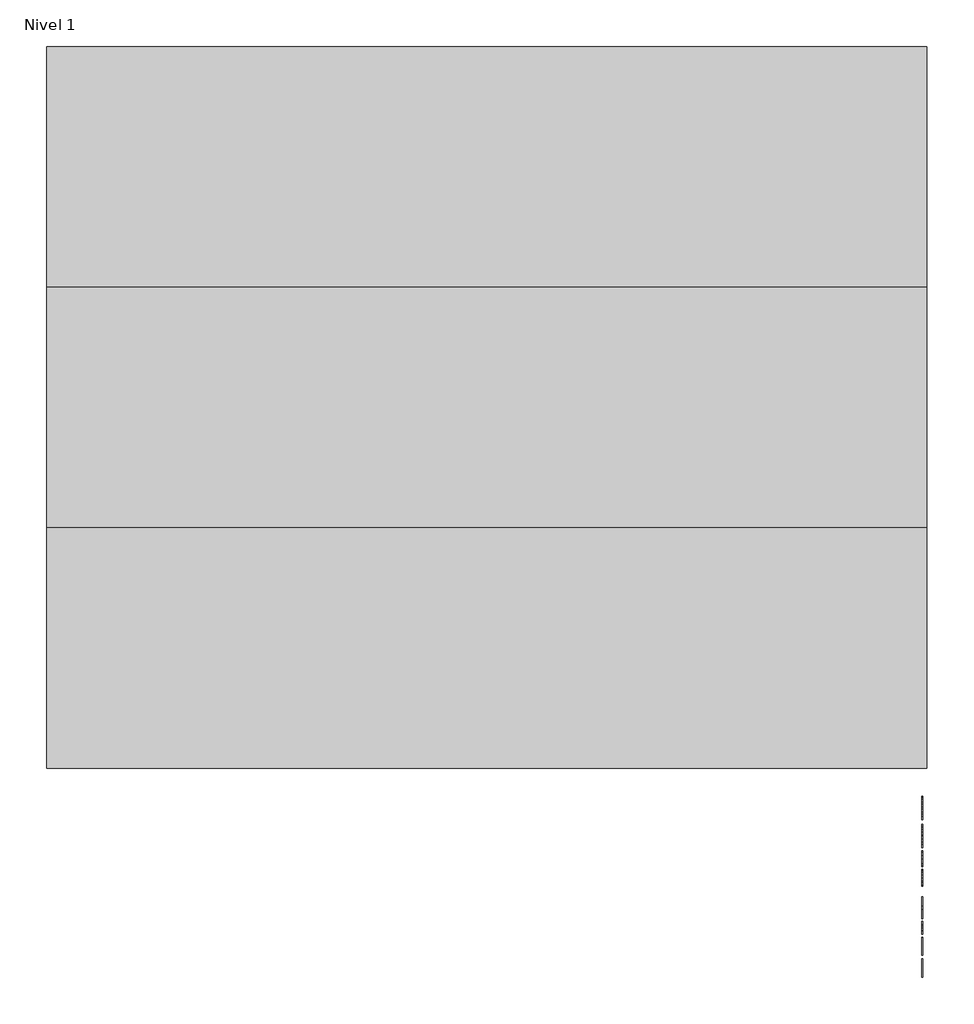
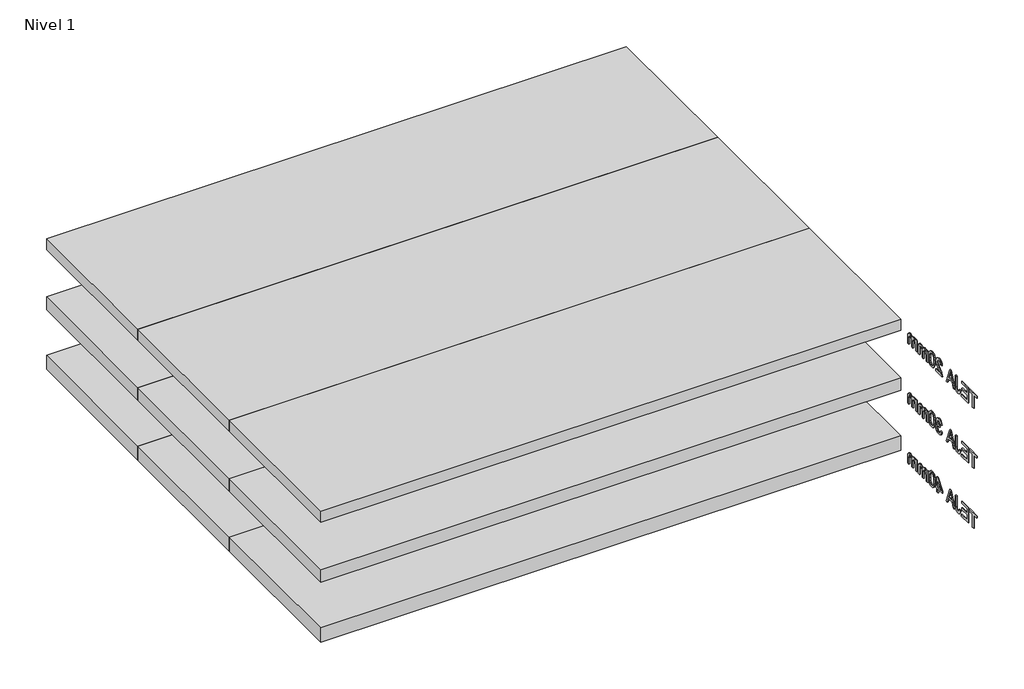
# One storey: 9 plates, 3 proxies.
"""IFC4 building model written with IfcOpenShell, lengths in millimetres."""

from ifc_helpers import new_model, si_unit, frame, origin, place, context, project, spatial, polyline, outline, extrude, transform, mapped, element, save
from components import panel_del_sistema_1a508368, panel_del_sistema_240816fc, panel_del_sistema_3fabdc7e

model = new_model("IFC4")

# Units and contexts
model_context = context("Model", 3, world=origin())
ifc_project = project(units=[si_unit("LENGTHUNIT", "METRE", prefix="MILLI")], contexts=[model_context])

# Site, building, storey
site = spatial("IfcSite", under=ifc_project)
building = spatial("IfcBuilding", under=site)
storey = spatial("IfcBuildingStorey", under=building, Name="Nivel 1", Elevation=0.0)

# Proxies
placement = place(None, origin())
element("IfcBuildingElementProxy", 1, Name="100mm Arial", ObjectType="100mm Arial", at=placement, inside=storey, context=model_context, shape_type="SweptSolid", body=[
    extrude(outline(polyline([(14461.6058109, -37.141573), (14461.6058109, 50.7576984), (14428.6435842, 50.7576984), (14428.6435842, 63.3147371), (14507.1250765, 63.3147371), (14507.1250765, 50.7576984), (14474.1628497, 50.7576984), (14474.1628497, -37.141573), (14461.6058109, -37.141573)])), frame((9557.0230098, 0.0, 0.0), z_axis=(1.0, 0.0, 0.0), x_axis=(0.0, 1.0, 0.0)), (0.0, 0.0, 1.0), 5.0),
    extrude(outline(polyline([(14521.2517451, -37.141573), (14521.2517451, 63.3147371), (14593.454718, 63.3147371), (14593.454718, 50.7576984), (14533.8087839, 50.7576984), (14533.8087839, 20.9347313), (14590.3154583, 20.9347313), (14590.3154583, 8.3776925), (14533.8087839, 8.3776925), (14533.8087839, -24.5845343), (14595.0243478, -24.5845343), (14595.0243478, -37.141573), (14521.2517451, -37.141573)])), frame((9557.0230098, 0.0, 0.0), z_axis=(1.0, 0.0, 0.0), x_axis=(0.0, 1.0, 0.0)), (0.0, 0.0, 1.0), 5.0),
    extrude(outline(polyline([(14607.5813866, -8.9372867), (14620.1384254, -7.318606), (14624.430382, -22.1565131), (14635.0253835, -26.1541641), (14643.6215594, -23.8855585), (14648.6002291, -17.705141), (14649.9613925, -5.2584668), (14649.9613925, 63.3147371), (14662.5184312, 63.3147371), (14662.5184312, -5.0377376), (14659.4895361, -24.5477461), (14649.8755533, -35.0814339), (14634.4367723, -38.7112029), (14622.8300953, -36.8380704), (14614.3013644, -31.2186729), (14609.126491, -21.9020614), (14607.5813866, -8.9372867)])), frame((9557.0230098, 0.0, 0.0), z_axis=(1.0, 0.0, 0.0), x_axis=(0.0, 1.0, 0.0)), (0.0, 0.0, 1.0), 5.0),
    extrude(outline(polyline([(14672.7946016, -37.141573), (14712.8937391, 63.3147371), (14723.5868424, 63.3147371), (14763.6859799, -37.141573), (14750.4177026, -37.141573), (14738.9152589, -5.7489761), (14697.5407972, -5.7489761), (14686.0628789, -37.141573), (14672.7946016, -37.141573)]), holes=[polyline([(14702.1515848, 6.8080627), (14734.3289967, 6.8080627), (14725.2790996, 31.5052073), (14718.2402908, 50.7576984), (14711.9862968, 33.6634483), (14702.1515848, 6.8080627)])]), frame((9557.0230098, 0.0, 0.0), z_axis=(1.0, 0.0, 0.0), x_axis=(0.0, 1.0, 0.0)), (0.0, 0.0, 1.0), 5.0),
    extrude(outline(polyline([(14875.9880903, -24.5845343), (14875.9880903, -37.141573), (14810.0636368, -37.141573), (14811.4125374, -28.4840834), (14819.0399574, -15.1544925), (14834.7607814, -0.5986282), (14856.4412936, 20.3215946), (14861.8614217, 34.5463651), (14856.747862, 46.0610715), (14843.3937455, 50.7576984), (14829.4755434, 46.1714361), (14824.1903054, 33.49177), (14811.6332666, 35.0613999), (14814.6774901, 47.2076371), (14821.2595121, 56.0797245), (14831.0359762, 61.505984), (14843.6635257, 63.3147371), (14856.3830456, 61.3036489), (14866.1411156, 55.2703842), (14872.3491242, 46.2572753), (14874.4184605, 35.3066546), (14872.186643, 23.3995406), (14864.7676894, 11.0877565), (14846.7782599, -6.1168581), (14832.3327602, -18.1956503), (14826.6673775, -24.5845343), (14875.9880903, -24.5845343)])), frame((9557.0230098, 0.0, 0.0), z_axis=(1.0, 0.0, 0.0), x_axis=(0.0, 1.0, 0.0)), (0.0, 0.0, 1.0), 5.0),
    extrude(outline(polyline([(14888.5451291, 12.2772417), (14892.2362118, 41.1805037), (14903.1990952, 57.8455581), (14921.5073558, 63.3147371), (14936.1735847, 60.0773756), (14946.3026023, 50.7454356), (14952.1887142, 35.883003), (14954.4695826, 12.2772417), (14950.8152881, -16.5033931), (14939.8891929, -33.2052357), (14931.6578332, -37.3347111), (14921.5073558, -38.7112029), (14908.4598077, -36.3199699), (14898.5515193, -29.146271), (14891.0467266, -12.1562542), (14888.5451291, 12.2772417)]), holes=[polyline([(14901.1021678, 12.3017671), (14902.5736958, -7.4504303), (14906.9882798, -18.8823633), (14913.5611047, -24.3362139), (14921.5073558, -26.1541641), (14929.4536069, -24.3300825), (14936.0264319, -18.8578379), (14940.4410159, -7.4197735), (14941.9125438, 12.3017671), (14940.4900668, 31.6094405), (14936.2226356, 43.1302783), (14929.6620734, 48.8508433), (14921.360203, 50.7576984), (14913.4997911, 49.0777039), (14907.1844835, 44.0377206), (14902.6227467, 31.7995129), (14901.1021678, 12.3017671)])]), frame((9557.0230098, 0.0, 0.0), z_axis=(1.0, 0.0, 0.0), x_axis=(0.0, 1.0, 0.0)), (0.0, 0.0, 1.0), 5.0),
    extrude(outline(polyline([(14968.5962512, -37.141573), (14968.5962512, 36.6310297), (14981.15329, 36.6310297), (14981.15329, 24.4909239), (14989.7862541, 34.4360005), (15002.0735128, 38.2006596), (15014.655077, 34.3624241), (15021.5712585, 23.6080071), (15031.3691823, 34.5524965), (15043.7422801, 38.2006596), (15053.181519, 36.6831464), (15060.1620798, 32.1306067), (15064.4754962, 24.4204132), (15065.9133017, 13.4299386), (15065.9133017, -37.141573), (15053.3562629, -37.141573), (15053.3562629, 8.034336), (15052.1913033, 18.5189728), (15047.972923, 23.6815835), (15040.7992241, 25.6436208), (15028.4506518, 20.6159002), (15024.7626348, 14.0737321), (15023.5332958, 4.5026688), (15023.5332958, -37.141573), (15010.9762571, -37.141573), (15010.9762571, 9.4322876), (15008.0699893, 21.5969189), (14998.5418456, 25.6436208), (14989.2466939, 22.9458195), (14983.0662764, 15.0486194), (14981.15329, 0.0635594), (14981.15329, -37.141573), (14968.5962512, -37.141573)])), frame((9557.0230098, 0.0, 0.0), z_axis=(1.0, 0.0, 0.0), x_axis=(0.0, 1.0, 0.0)), (0.0, 0.0, 1.0), 5.0),
    extrude(outline(polyline([(15084.7488598, -37.141573), (15084.7488598, 36.6310297), (15097.3058986, 36.6310297), (15097.3058986, 24.4909239), (15105.9388628, 34.4360005), (15118.2261214, 38.2006596), (15130.8076856, 34.3624241), (15137.7238671, 23.6080071), (15147.5217909, 34.5524965), (15159.8948887, 38.2006596), (15169.3341276, 36.6831464), (15176.3146884, 32.1306067), (15180.6281048, 24.4204132), (15182.0659103, 13.4299386), (15182.0659103, -37.141573), (15169.5088715, -37.141573), (15169.5088715, 8.034336), (15168.3439119, 18.5189728), (15164.1255317, 23.6815835), (15156.9518327, 25.6436208), (15144.6032604, 20.6159002), (15140.9152434, 14.0737321), (15139.6859044, 4.5026688), (15139.6859044, -37.141573), (15127.1288657, -37.141573), (15127.1288657, 9.4322876), (15124.2225979, 21.5969189), (15114.6944542, 25.6436208), (15105.3993025, 22.9458195), (15099.218885, 15.0486194), (15097.3058986, 0.0635594), (15097.3058986, -37.141573), (15084.7488598, -37.141573)])), frame((9557.0230098, 0.0, 0.0), z_axis=(1.0, 0.0, 0.0), x_axis=(0.0, 1.0, 0.0)), (0.0, 0.0, 1.0), 5.0),
])
element("IfcBuildingElementProxy", 2, Name="100mm Arial", ObjectType="100mm Arial", at=placement, inside=storey, context=model_context, shape_type="SweptSolid", body=[
    extrude(outline(polyline([(14461.6058109, -437.141573), (14461.6058109, -349.2423016), (14428.6435842, -349.2423016), (14428.6435842, -336.6852629), (14507.1250765, -336.6852629), (14507.1250765, -349.2423016), (14474.1628497, -349.2423016), (14474.1628497, -437.141573), (14461.6058109, -437.141573)])), frame((9557.0230098, 0.0, 0.0), z_axis=(1.0, 0.0, 0.0), x_axis=(0.0, 1.0, 0.0)), (0.0, 0.0, 1.0), 5.0),
    extrude(outline(polyline([(14521.2517451, -437.141573), (14521.2517451, -336.6852629), (14593.454718, -336.6852629), (14593.454718, -349.2423016), (14533.8087839, -349.2423016), (14533.8087839, -379.0652687), (14590.3154583, -379.0652687), (14590.3154583, -391.6223075), (14533.8087839, -391.6223075), (14533.8087839, -424.5845343), (14595.0243478, -424.5845343), (14595.0243478, -437.141573), (14521.2517451, -437.141573)])), frame((9557.0230098, 0.0, 0.0), z_axis=(1.0, 0.0, 0.0), x_axis=(0.0, 1.0, 0.0)), (0.0, 0.0, 1.0), 5.0),
    extrude(outline(polyline([(14607.5813866, -408.9372867), (14620.1384254, -407.318606), (14624.430382, -422.1565131), (14635.0253835, -426.1541641), (14643.6215594, -423.8855585), (14648.6002291, -417.705141), (14649.9613925, -405.2584668), (14649.9613925, -336.6852629), (14662.5184312, -336.6852629), (14662.5184312, -405.0377376), (14659.4895361, -424.5477461), (14649.8755533, -435.0814339), (14634.4367723, -438.7112029), (14622.8300953, -436.8380704), (14614.3013644, -431.2186729), (14609.126491, -421.9020614), (14607.5813866, -408.9372867)])), frame((9557.0230098, 0.0, 0.0), z_axis=(1.0, 0.0, 0.0), x_axis=(0.0, 1.0, 0.0)), (0.0, 0.0, 1.0), 5.0),
    extrude(outline(polyline([(14672.7946016, -437.141573), (14712.8937391, -336.6852629), (14723.5868424, -336.6852629), (14763.6859799, -437.141573), (14750.4177026, -437.141573), (14738.9152589, -405.7489761), (14697.5407972, -405.7489761), (14686.0628789, -437.141573), (14672.7946016, -437.141573)]), holes=[polyline([(14702.1515848, -393.1919373), (14734.3289967, -393.1919373), (14725.2790996, -368.4947927), (14718.2402908, -349.2423016), (14711.9862968, -366.3365517), (14702.1515848, -393.1919373)])]), frame((9557.0230098, 0.0, 0.0), z_axis=(1.0, 0.0, 0.0), x_axis=(0.0, 1.0, 0.0)), (0.0, 0.0, 1.0), 5.0),
    extrude(outline(polyline([(14811.6332666, -410.4578656), (14824.1903054, -408.8882358), (14831.1187496, -422.1074622), (14844.0804586, -426.1541641), (14852.6888973, -424.7623439), (14859.3352987, -420.5868832), (14865.0006814, -406.8035712), (14859.3843496, -393.8173367), (14845.1105282, -388.6792515), (14836.3058858, -390.0526776), (14837.7038373, -377.4956389), (14839.7149256, -377.6427917), (14853.9642215, -374.0375481), (14858.7098993, -369.4635487), (14860.2917918, -362.9520373), (14855.7055296, -353.1295881), (14843.8842549, -349.2423016), (14831.9158273, -353.1663763), (14825.7599352, -364.9386001), (14813.2028965, -363.3689703), (14816.9001105, -352.0933871), (14823.4790669, -343.6750208), (14832.479913, -338.4327024), (14843.4427965, -336.6852629), (14858.5872719, -340.1310909), (14869.1822734, -349.54887), (14872.8488306, -362.2162733), (14869.3662144, -373.7922935), (14859.0655185, -382.1064266), (14872.7507287, -390.6903398), (14877.5577201, -407.0243004), (14875.1542244, -419.2625081), (14867.9437373, -429.4896275), (14857.0605616, -436.405809), (14843.6390002, -438.7112029), (14831.4988943, -436.7430342), (14821.6151314, -430.8385282), (14814.7418695, -421.8070252), (14811.6332666, -410.4578656)])), frame((9557.0230098, 0.0, 0.0), z_axis=(1.0, 0.0, 0.0), x_axis=(0.0, 1.0, 0.0)), (0.0, 0.0, 1.0), 5.0),
    extrude(outline(polyline([(14888.5451291, -387.7227583), (14892.2362118, -358.8194963), (14903.1990952, -342.1544419), (14921.5073558, -336.6852629), (14936.1735847, -339.9226244), (14946.3026023, -349.2545644), (14952.1887142, -364.116997), (14954.4695826, -387.7227583), (14950.8152881, -416.5033931), (14939.8891929, -433.2052357), (14931.6578332, -437.3347111), (14921.5073558, -438.7112029), (14908.4598077, -436.3199699), (14898.5515193, -429.146271), (14891.0467266, -412.1562542), (14888.5451291, -387.7227583)]), holes=[polyline([(14901.1021678, -387.6982329), (14902.5736958, -407.4504303), (14906.9882798, -418.8823633), (14913.5611047, -424.3362139), (14921.5073558, -426.1541641), (14929.4536069, -424.3300825), (14936.0264319, -418.8578379), (14940.4410159, -407.4197735), (14941.9125438, -387.6982329), (14940.4900668, -368.3905595), (14936.2226356, -356.8697217), (14929.6620734, -351.1491567), (14921.360203, -349.2423016), (14913.4997911, -350.9222961), (14907.1844835, -355.9622794), (14902.6227467, -368.2004871), (14901.1021678, -387.6982329)])]), frame((9557.0230098, 0.0, 0.0), z_axis=(1.0, 0.0, 0.0), x_axis=(0.0, 1.0, 0.0)), (0.0, 0.0, 1.0), 5.0),
    extrude(outline(polyline([(14968.5962512, -437.141573), (14968.5962512, -363.3689703), (14981.15329, -363.3689703), (14981.15329, -375.5090761), (14989.7862541, -365.5639995), (15002.0735128, -361.7993404), (15014.655077, -365.6375759), (15021.5712585, -376.3919929), (15031.3691823, -365.4475035), (15043.7422801, -361.7993404), (15053.181519, -363.3168536), (15060.1620798, -367.8693933), (15064.4754962, -375.5795868), (15065.9133017, -386.5700614), (15065.9133017, -437.141573), (15053.3562629, -437.141573), (15053.3562629, -391.965664), (15052.1913033, -381.4810272), (15047.972923, -376.3184165), (15040.7992241, -374.3563792), (15028.4506518, -379.3840998), (15024.7626348, -385.9262679), (15023.5332958, -395.4973312), (15023.5332958, -437.141573), (15010.9762571, -437.141573), (15010.9762571, -390.5677124), (15008.0699893, -378.4030811), (14998.5418456, -374.3563792), (14989.2466939, -377.0541805), (14983.0662764, -384.9513806), (14981.15329, -399.9364406), (14981.15329, -437.141573), (14968.5962512, -437.141573)])), frame((9557.0230098, 0.0, 0.0), z_axis=(1.0, 0.0, 0.0), x_axis=(0.0, 1.0, 0.0)), (0.0, 0.0, 1.0), 5.0),
    extrude(outline(polyline([(15084.7488598, -437.141573), (15084.7488598, -363.3689703), (15097.3058986, -363.3689703), (15097.3058986, -375.5090761), (15105.9388628, -365.5639995), (15118.2261214, -361.7993404), (15130.8076856, -365.6375759), (15137.7238671, -376.3919929), (15147.5217909, -365.4475035), (15159.8948887, -361.7993404), (15169.3341276, -363.3168536), (15176.3146884, -367.8693933), (15180.6281048, -375.5795868), (15182.0659103, -386.5700614), (15182.0659103, -437.141573), (15169.5088715, -437.141573), (15169.5088715, -391.965664), (15168.3439119, -381.4810272), (15164.1255317, -376.3184165), (15156.9518327, -374.3563792), (15144.6032604, -379.3840998), (15140.9152434, -385.9262679), (15139.6859044, -395.4973312), (15139.6859044, -437.141573), (15127.1288657, -437.141573), (15127.1288657, -390.5677124), (15124.2225979, -378.4030811), (15114.6944542, -374.3563792), (15105.3993025, -377.0541805), (15099.218885, -384.9513806), (15097.3058986, -399.9364406), (15097.3058986, -437.141573), (15084.7488598, -437.141573)])), frame((9557.0230098, 0.0, 0.0), z_axis=(1.0, 0.0, 0.0), x_axis=(0.0, 1.0, 0.0)), (0.0, 0.0, 1.0), 5.0),
])
element("IfcBuildingElementProxy", 3, Name="100mm Arial", ObjectType="100mm Arial", at=placement, inside=storey, context=model_context, shape_type="SweptSolid", body=[
    extrude(outline(polyline([(14461.6058109, -837.141573), (14461.6058109, -749.2423016), (14428.6435842, -749.2423016), (14428.6435842, -736.6852629), (14507.1250765, -736.6852629), (14507.1250765, -749.2423016), (14474.1628497, -749.2423016), (14474.1628497, -837.141573), (14461.6058109, -837.141573)])), frame((9557.0230098, 0.0, 0.0), z_axis=(1.0, 0.0, 0.0), x_axis=(0.0, 1.0, 0.0)), (0.0, 0.0, 1.0), 5.0),
    extrude(outline(polyline([(14521.2517451, -837.141573), (14521.2517451, -736.6852629), (14593.454718, -736.6852629), (14593.454718, -749.2423016), (14533.8087839, -749.2423016), (14533.8087839, -779.0652687), (14590.3154583, -779.0652687), (14590.3154583, -791.6223075), (14533.8087839, -791.6223075), (14533.8087839, -824.5845343), (14595.0243478, -824.5845343), (14595.0243478, -837.141573), (14521.2517451, -837.141573)])), frame((9557.0230098, 0.0, 0.0), z_axis=(1.0, 0.0, 0.0), x_axis=(0.0, 1.0, 0.0)), (0.0, 0.0, 1.0), 5.0),
    extrude(outline(polyline([(14607.5813866, -808.9372867), (14620.1384254, -807.318606), (14624.430382, -822.1565131), (14635.0253835, -826.1541641), (14643.6215594, -823.8855585), (14648.6002291, -817.705141), (14649.9613925, -805.2584668), (14649.9613925, -736.6852629), (14662.5184312, -736.6852629), (14662.5184312, -805.0377376), (14659.4895361, -824.5477461), (14649.8755533, -835.0814339), (14634.4367723, -838.7112029), (14622.8300953, -836.8380704), (14614.3013644, -831.2186729), (14609.126491, -821.9020614), (14607.5813866, -808.9372867)])), frame((9557.0230098, 0.0, 0.0), z_axis=(1.0, 0.0, 0.0), x_axis=(0.0, 1.0, 0.0)), (0.0, 0.0, 1.0), 5.0),
    extrude(outline(polyline([(14672.7946016, -837.141573), (14712.8937391, -736.6852629), (14723.5868424, -736.6852629), (14763.6859799, -837.141573), (14750.4177026, -837.141573), (14738.9152589, -805.7489761), (14697.5407972, -805.7489761), (14686.0628789, -837.141573), (14672.7946016, -837.141573)]), holes=[polyline([(14702.1515848, -793.1919373), (14734.3289967, -793.1919373), (14725.2790996, -768.4947927), (14718.2402908, -749.2423016), (14711.9862968, -766.3365517), (14702.1515848, -793.1919373)])]), frame((9557.0230098, 0.0, 0.0), z_axis=(1.0, 0.0, 0.0), x_axis=(0.0, 1.0, 0.0)), (0.0, 0.0, 1.0), 5.0),
    extrude(outline(polyline([(14852.4436426, -837.141573), (14852.4436426, -813.5971253), (14806.9243771, -813.5971253), (14806.9243771, -801.0400866), (14855.5829023, -738.2548927), (14865.0006814, -738.2548927), (14865.0006814, -801.0400866), (14877.5577201, -801.0400866), (14877.5577201, -813.5971253), (14865.0006814, -813.5971253), (14865.0006814, -837.141573), (14852.4436426, -837.141573)]), holes=[polyline([(14852.4436426, -801.0400866), (14852.4436426, -762.2407988), (14822.3754209, -801.0400866), (14852.4436426, -801.0400866)])]), frame((9557.0230098, 0.0, 0.0), z_axis=(1.0, 0.0, 0.0), x_axis=(0.0, 1.0, 0.0)), (0.0, 0.0, 1.0), 5.0),
    extrude(outline(polyline([(14888.5451291, -787.7227583), (14892.2362118, -758.8194963), (14903.1990952, -742.1544419), (14921.5073558, -736.6852629), (14936.1735847, -739.9226244), (14946.3026023, -749.2545644), (14952.1887142, -764.116997), (14954.4695826, -787.7227583), (14950.8152881, -816.5033931), (14939.8891929, -833.2052357), (14931.6578332, -837.3347111), (14921.5073558, -838.7112029), (14908.4598077, -836.3199699), (14898.5515193, -829.146271), (14891.0467266, -812.1562542), (14888.5451291, -787.7227583)]), holes=[polyline([(14901.1021678, -787.6982329), (14902.5736958, -807.4504303), (14906.9882798, -818.8823633), (14913.5611047, -824.3362139), (14921.5073558, -826.1541641), (14929.4536069, -824.3300825), (14936.0264319, -818.8578379), (14940.4410159, -807.4197735), (14941.9125438, -787.6982329), (14940.4900668, -768.3905595), (14936.2226356, -756.8697217), (14929.6620734, -751.1491567), (14921.360203, -749.2423016), (14913.4997911, -750.9222961), (14907.1844835, -755.9622794), (14902.6227467, -768.2004871), (14901.1021678, -787.6982329)])]), frame((9557.0230098, 0.0, 0.0), z_axis=(1.0, 0.0, 0.0), x_axis=(0.0, 1.0, 0.0)), (0.0, 0.0, 1.0), 5.0),
    extrude(outline(polyline([(14968.5962512, -837.141573), (14968.5962512, -763.3689703), (14981.15329, -763.3689703), (14981.15329, -775.5090761), (14989.7862541, -765.5639995), (15002.0735128, -761.7993404), (15014.655077, -765.6375759), (15021.5712585, -776.3919929), (15031.3691823, -765.4475035), (15043.7422801, -761.7993404), (15053.181519, -763.3168536), (15060.1620798, -767.8693933), (15064.4754962, -775.5795868), (15065.9133017, -786.5700614), (15065.9133017, -837.141573), (15053.3562629, -837.141573), (15053.3562629, -791.965664), (15052.1913033, -781.4810272), (15047.972923, -776.3184165), (15040.7992241, -774.3563792), (15028.4506518, -779.3840998), (15024.7626348, -785.9262679), (15023.5332958, -795.4973312), (15023.5332958, -837.141573), (15010.9762571, -837.141573), (15010.9762571, -790.5677124), (15008.0699893, -778.4030811), (14998.5418456, -774.3563792), (14989.2466939, -777.0541805), (14983.0662764, -784.9513806), (14981.15329, -799.9364406), (14981.15329, -837.141573), (14968.5962512, -837.141573)])), frame((9557.0230098, 0.0, 0.0), z_axis=(1.0, 0.0, 0.0), x_axis=(0.0, 1.0, 0.0)), (0.0, 0.0, 1.0), 5.0),
    extrude(outline(polyline([(15084.7488598, -837.141573), (15084.7488598, -763.3689703), (15097.3058986, -763.3689703), (15097.3058986, -775.5090761), (15105.9388628, -765.5639995), (15118.2261214, -761.7993404), (15130.8076856, -765.6375759), (15137.7238671, -776.3919929), (15147.5217909, -765.4475035), (15159.8948887, -761.7993404), (15169.3341276, -763.3168536), (15176.3146884, -767.8693933), (15180.6281048, -775.5795868), (15182.0659103, -786.5700614), (15182.0659103, -837.141573), (15169.5088715, -837.141573), (15169.5088715, -791.965664), (15168.3439119, -781.4810272), (15164.1255317, -776.3184165), (15156.9518327, -774.3563792), (15144.6032604, -779.3840998), (15140.9152434, -785.9262679), (15139.6859044, -795.4973312), (15139.6859044, -837.141573), (15127.1288657, -837.141573), (15127.1288657, -790.5677124), (15124.2225979, -778.4030811), (15114.6944542, -774.3563792), (15105.3993025, -777.0541805), (15099.218885, -784.9513806), (15097.3058986, -799.9364406), (15097.3058986, -837.141573), (15084.7488598, -837.141573)])), frame((9557.0230098, 0.0, 0.0), z_axis=(1.0, 0.0, 0.0), x_axis=(0.0, 1.0, 0.0)), (0.0, 0.0, 1.0), 5.0),
])

# Plates
panel_del_sistema_shape = panel_del_sistema_1a508368(model_context)
element("IfcPlate", 4, ObjectType="Panel del sistema : HIANSA PANEL - PANELES DE CUBIERTA - PANEL TEJA - Esp. 20mm", at=placement, inside=storey, context=model_context, shape_type="MappedRepresentation", body=[
    mapped(panel_del_sistema_shape, transform((9579.0356399, 17798.3330794, -29.5962409), x_axis=(0.0, -1.0, 0.0), y_axis=(0.0, 0.0, 1.0), z_axis=(-1.0, 0.0, 0.0))),
])
element("IfcPlate", 5, ObjectType="Panel del sistema : HIANSA PANEL - PANELES DE CUBIERTA - PANEL TEJA - Esp. 20mm", at=placement, inside=storey, context=model_context, shape_type="MappedRepresentation", body=[
    mapped(panel_del_sistema_shape, transform((9579.0356399, 16798.3330793, -29.5962409), x_axis=(0.0, -1.0, 0.0), y_axis=(0.0, 0.0, 1.0), z_axis=(-1.0, 0.0, 0.0))),
])
element("IfcPlate", 6, ObjectType="Panel del sistema : HIANSA PANEL - PANELES DE CUBIERTA - PANEL TEJA - Esp. 20mm", at=placement, inside=storey, context=model_context, shape_type="MappedRepresentation", body=[
    mapped(panel_del_sistema_shape, transform((9579.0356399, 15798.3330794, -29.5962409), x_axis=(0.0, -1.0, 0.0), y_axis=(0.0, 0.0, 1.0), z_axis=(-1.0, 0.0, 0.0))),
])
panel_del_sistema_2_shape = panel_del_sistema_240816fc(model_context)
element("IfcPlate", 7, ObjectType="Panel del sistema : HIANSA PANEL - PANELES DE CUBIERTA - PANEL TEJA - Esp. 30mm", at=placement, inside=storey, context=model_context, shape_type="MappedRepresentation", body=[
    mapped(panel_del_sistema_2_shape, transform((9579.0356399, 17798.3330794, -429.5962409), x_axis=(0.0, -1.0, 0.0), y_axis=(0.0, 0.0, 1.0), z_axis=(-1.0, 0.0, 0.0))),
])
element("IfcPlate", 8, ObjectType="Panel del sistema : HIANSA PANEL - PANELES DE CUBIERTA - PANEL TEJA - Esp. 30mm", at=placement, inside=storey, context=model_context, shape_type="MappedRepresentation", body=[
    mapped(panel_del_sistema_2_shape, transform((9579.0356399, 16798.3330793, -429.5962409), x_axis=(0.0, -1.0, 0.0), y_axis=(0.0, 0.0, 1.0), z_axis=(-1.0, 0.0, 0.0))),
])
element("IfcPlate", 9, ObjectType="Panel del sistema : HIANSA PANEL - PANELES DE CUBIERTA - PANEL TEJA - Esp. 30mm", at=placement, inside=storey, context=model_context, shape_type="MappedRepresentation", body=[
    mapped(panel_del_sistema_2_shape, transform((9579.0356399, 15798.3330794, -429.5962409), x_axis=(0.0, -1.0, 0.0), y_axis=(0.0, 0.0, 1.0), z_axis=(-1.0, 0.0, 0.0))),
])
panel_del_sistema_3_shape = panel_del_sistema_3fabdc7e(model_context)
element("IfcPlate", 10, ObjectType="Panel del sistema : HIANSA PANEL - PANELES DE CUBIERTA - PANEL TEJA - Esp. 40mm", at=placement, inside=storey, context=model_context, shape_type="MappedRepresentation", body=[
    mapped(panel_del_sistema_3_shape, transform((9579.0356399, 17798.3330794, -829.5962409), x_axis=(0.0, -1.0, 0.0), y_axis=(0.0, 0.0, 1.0), z_axis=(-1.0, 0.0, 0.0))),
])
element("IfcPlate", 11, ObjectType="Panel del sistema : HIANSA PANEL - PANELES DE CUBIERTA - PANEL TEJA - Esp. 40mm", at=placement, inside=storey, context=model_context, shape_type="MappedRepresentation", body=[
    mapped(panel_del_sistema_3_shape, transform((9579.0356399, 16798.3330793, -829.5962409), x_axis=(0.0, -1.0, 0.0), y_axis=(0.0, 0.0, 1.0), z_axis=(-1.0, 0.0, 0.0))),
])
element("IfcPlate", 12, ObjectType="Panel del sistema : HIANSA PANEL - PANELES DE CUBIERTA - PANEL TEJA - Esp. 40mm", at=placement, inside=storey, context=model_context, shape_type="MappedRepresentation", body=[
    mapped(panel_del_sistema_3_shape, transform((9579.0356399, 15798.3330794, -829.5962409), x_axis=(0.0, -1.0, 0.0), y_axis=(0.0, 0.0, 1.0), z_axis=(-1.0, 0.0, 0.0))),
])

save(model, "model.ifc")
